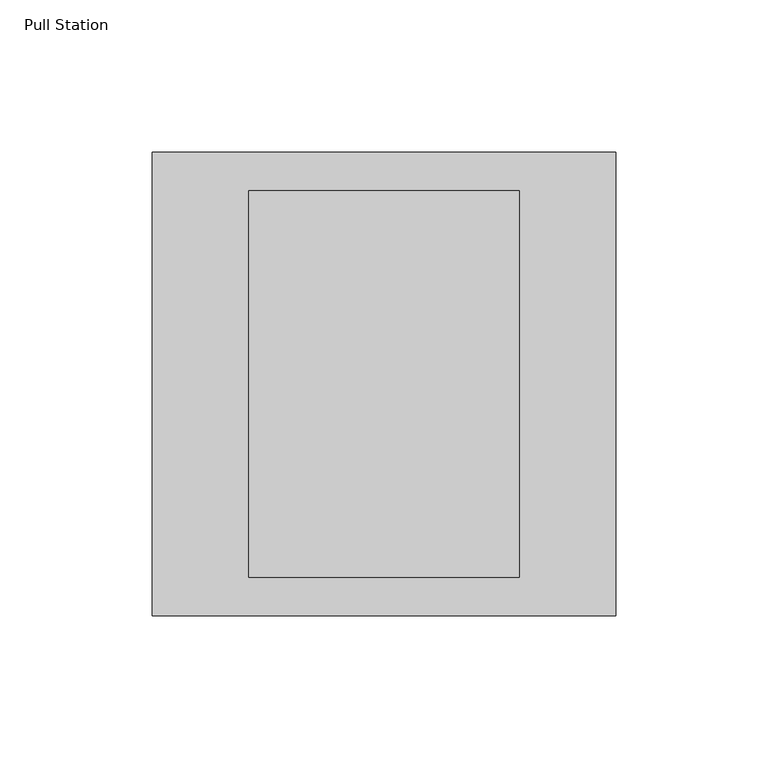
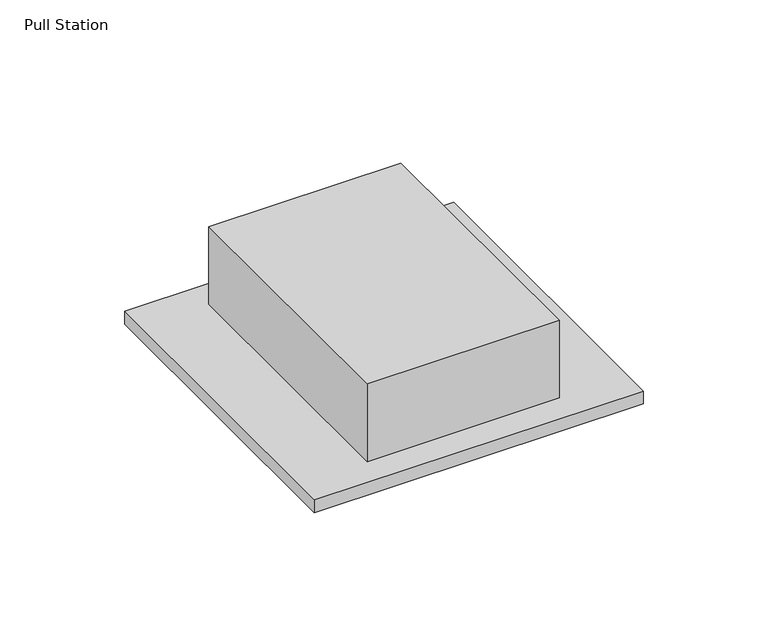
"""IFC4 building model written with IfcOpenShell, lengths in millimetres: alarm geometry, FireBIM Tutorial Manual Fire Alarm Box (Wall) : Pull Station."""

from ifc_helpers import new_model, si_unit, frame, origin, origin_with_axes, place, context, project, spatial, polyline, outline, extrude, source, transform, mapped, element, save


def pull_station_a674f03b(model_context):
    return source(origin(), model_context, "Body", "SweptSolid", [
        extrude(outline(polyline([(44.45, 63.5), (44.45, -63.5), (-44.45, -63.5), (-44.45, 63.5), (44.45, 63.5)])), origin_with_axes(), (0.0, 0.0, 1.0), 38.1),
        extrude(outline(polyline([(76.2, 76.2), (76.2, -76.2), (-76.2, -76.2), (-76.2, 76.2), (76.2, 76.2)])), frame((0.0, 0.0, -6.35), z_axis=(0.0, 0.0, 1.0), x_axis=(1.0, 0.0, 0.0)), (0.0, 0.0, 1.0), 6.35),
    ])


if __name__ == "__main__":
    model = new_model("IFC4")
    model_context = context("Model", 3, world=origin())
    ifc_project = project(units=[si_unit("LENGTHUNIT", "METRE", prefix="MILLI")], contexts=[model_context])
    site = spatial("IfcSite", under=ifc_project)
    building = spatial("IfcBuilding", under=site)
    placement = place(None, origin())
    pull_station_shape = pull_station_a674f03b(model_context)
    element("IfcAlarm", 1, ObjectType="FireBIM Tutorial Manual Fire Alarm Box (Wall) : Pull Station", at=placement, inside=building, context=model_context, shape_type="MappedRepresentation", body=[
        mapped(pull_station_shape, transform((0.0, 0.0, 0.0), x_axis=(1.0, 0.0, 0.0), y_axis=(0.0, 1.0, 0.0), z_axis=(0.0, 0.0, 1.0))),
    ])
    save(model, "model.ifc")
